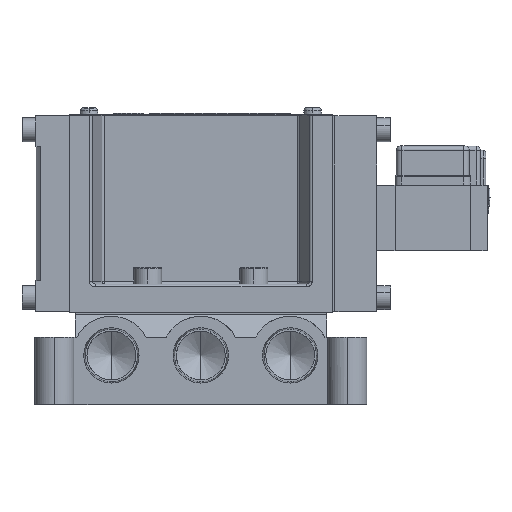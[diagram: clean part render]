
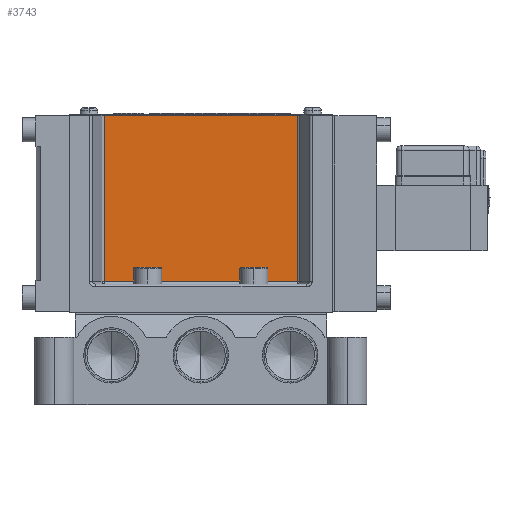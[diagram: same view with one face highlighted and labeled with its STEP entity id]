
A CAD part, top view. The second image highlights one B-rep face of the part: STEP entity #3743.
In plain terms, the highlighted planar face has unit normal (0, 0, 1).
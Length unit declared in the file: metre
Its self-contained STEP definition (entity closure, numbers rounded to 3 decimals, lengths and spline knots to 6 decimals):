
#458 = ORIENTED_EDGE ( 'NONE', *, *, #10830, .F. ) ;
#1724 = ORIENTED_EDGE ( 'NONE', *, *, #11670, .T. ) ;
#3636 = ORIENTED_EDGE ( 'NONE', *, *, #10895, .F. ) ;
#3743 = ADVANCED_FACE ( 'NONE', ( #7912 ), #11004, .F. ) ;
#3898 = AXIS2_PLACEMENT_3D ( 'NONE', #10932, #11111, #11138 ) ;
#7645 = VERTEX_POINT ( 'NONE', #19483 ) ;
#7912 = FACE_OUTER_BOUND ( 'NONE', #14121, .T. ) ;
#8487 = LINE ( 'NONE', #11503, #12278 ) ;
#8902 = CARTESIAN_POINT ( 'NONE',  ( 0.03448, 0.012, 0.01815 ) ) ;
#8981 = VECTOR ( 'NONE', #11542, 1. ) ;
#10038 = CARTESIAN_POINT ( 'NONE',  ( -0.03448, 0.04175, 0.01815 ) ) ;
#10095 = DIRECTION ( 'NONE',  ( 0., 1., 0. ) ) ;
#10382 = VERTEX_POINT ( 'NONE', #20644 ) ;
#10824 = EDGE_CURVE ( 'NONE', #10382, #12008, #12819, .T. ) ;
#10830 = EDGE_CURVE ( 'NONE', #12008, #7645, #8487, .T. ) ;
#10895 = EDGE_CURVE ( 'NONE', #7645, #15140, #16837, .T. ) ;
#10932 = CARTESIAN_POINT ( 'NONE',  ( 0.03448, 0.012, 0.01815 ) ) ;
#11004 = PLANE ( 'NONE',  #3898 ) ;
#11111 = DIRECTION ( 'NONE',  ( 0., 0., -1. ) ) ;
#11138 = DIRECTION ( 'NONE',  ( -1., 0., 0. ) ) ;
#11288 = DIRECTION ( 'NONE',  ( -1., 0., 0. ) ) ;
#11503 = CARTESIAN_POINT ( 'NONE',  ( 0., 0.012, 0.01815 ) ) ;
#11523 = CARTESIAN_POINT ( 'NONE',  ( 0.03448, 0.04175, 0.01815 ) ) ;
#11542 = DIRECTION ( 'NONE',  ( 0., -1., 0. ) ) ;
#11670 = EDGE_CURVE ( 'NONE', #10382, #15140, #17797, .T. ) ;
#12008 = VERTEX_POINT ( 'NONE', #8902 ) ;
#12278 = VECTOR ( 'NONE', #11288, 1. ) ;
#12819 = LINE ( 'NONE', #11523, #8981 ) ;
#13022 = ORIENTED_EDGE ( 'NONE', *, *, #10824, .F. ) ;
#13657 = CARTESIAN_POINT ( 'NONE',  ( -0.03448, 0.0715, 0.01815 ) ) ;
#14121 = EDGE_LOOP ( 'NONE', ( #13022, #1724, #3636, #458 ) ) ;
#15140 = VERTEX_POINT ( 'NONE', #13657 ) ;
#16211 = DIRECTION ( 'NONE',  ( -1., 0., 0. ) ) ;
#16639 = CARTESIAN_POINT ( 'NONE',  ( 0., 0.0715, 0.01815 ) ) ;
#16837 = LINE ( 'NONE', #10038, #20142 ) ;
#17296 = VECTOR ( 'NONE', #16211, 1. ) ;
#17797 = LINE ( 'NONE', #16639, #17296 ) ;
#19483 = CARTESIAN_POINT ( 'NONE',  ( -0.03448, 0.012, 0.01815 ) ) ;
#20142 = VECTOR ( 'NONE', #10095, 1. ) ;
#20644 = CARTESIAN_POINT ( 'NONE',  ( 0.03448, 0.0715, 0.01815 ) ) ;
